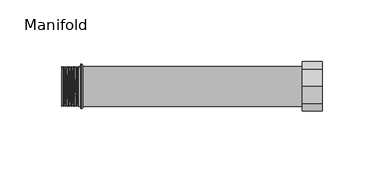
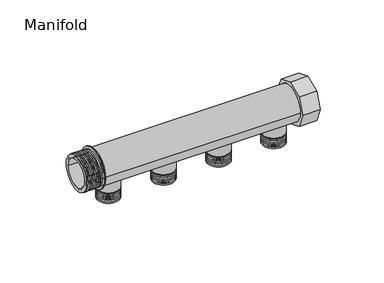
"""IFC4 building model written with IfcOpenShell, lengths in millimetres: valve geometry."""

from ifc_helpers import new_model, si_unit, point, frame, frame_2d, origin, origin_2d, place, context, project, spatial, polyline, circle_curve, ellipse_curve, trimmed, segment, composite_curve, outline, extrude, source, transform, mapped, element, save
from ifc_brep_helpers import plane_surface, cylinder_surface, revolved_surface, advanced_brep


def manifold_a6c2bfd1(model_context):
    return source(origin(), model_context, "Body", "SolidModel", [
        extrude(outline(composite_curve([segment(trimmed(circle_curve(frame_2d((179.0, 0.0)), 10.0), [point((169.0, 0.0))], [point((189.0, 0.0))], False, "CARTESIAN"), True, "CONTINUOUS"), segment(trimmed(circle_curve(frame_2d((179.0, 0.0)), 10.0), [point((189.0, 0.0))], [point((169.0, 0.0))], False, "CARTESIAN"), True, "CONTINUOUS")], self_intersect=False)), frame((0.0, 0.0, -22.0), z_axis=(0.0, 0.0, 1.0), x_axis=(1.0, 0.0, 0.0)), (0.0, 0.0, 1.0), 22.0),
        advanced_brep(
        [(169.0, 0.0, -32.0), (189.0, 0.0, -32.0), (179.0, 0.0, -32.0), (179.0, 0.0, -22.0), (189.0, 0.0, -22.0), (169.0, 0.0, -22.0), (170.0, 0.0, -31.2403523), (188.0, 0.0, -31.2403523), (169.0, 0.0, -30.4807046), (189.0, 0.0, -30.4807046), (170.0, 0.0, -29.721057), (188.0, 0.0, -29.721057), (169.0, 0.0, -28.9614093), (189.0, 0.0, -28.9614093), (170.0, 0.0, -28.2017616), (188.0, 0.0, -28.2017616), (169.0, 0.0, -27.4421139), (189.0, 0.0, -27.4421139), (170.0, 0.0, -26.6824663), (188.0, 0.0, -26.6824663), (169.0, 0.0, -25.9228186), (189.0, 0.0, -25.9228186), (170.0, 0.0, -25.1631709), (188.0, 0.0, -25.1631709), (169.0, 0.0, -24.4035232), (189.0, 0.0, -24.4035232), (170.0, 0.0, -23.6438756), (188.0, 0.0, -23.6438756), (169.0, 0.0, -22.8842279), (189.0, 0.0, -22.8842279)],
        [
            (0, 1, circle_curve(frame((179.0, 0.0, -32.0), z_axis=(0.0, 0.0, -1.0), x_axis=(1.0, 0.0, 0.0)), 10.0)),
            (1, 2),
            (2, 0),
            (1, 0, circle_curve(frame((179.0, 0.0, -32.0), z_axis=(0.0, 0.0, -1.0), x_axis=(1.0, 0.0, 0.0)), 10.0)),
            (3, 4),
            (4, 5, circle_curve(frame((179.0, 0.0, -22.0), z_axis=(0.0, 0.0, 1.0), x_axis=(1.0, 0.0, 0.0)), 10.0)),
            (5, 3),
            (5, 4, circle_curve(frame((179.0, 0.0, -22.0), z_axis=(0.0, 0.0, 1.0), x_axis=(1.0, 0.0, 0.0)), 10.0)),
            (6, 7, circle_curve(frame((179.0, 0.0, -31.2403523), z_axis=(0.0, 0.0, -1.0), x_axis=(1.0, 0.0, 0.0)), 9.0)),
            (7, 1),
            (0, 6),
            (7, 6, circle_curve(frame((179.0, 0.0, -31.2403523), z_axis=(0.0, 0.0, -1.0), x_axis=(1.0, 0.0, 0.0)), 9.0)),
            (8, 9, circle_curve(frame((179.0, 0.0, -30.4807046), z_axis=(0.0, 0.0, -1.0), x_axis=(1.0, 0.0, 0.0)), 10.0)),
            (9, 7),
            (6, 8),
            (9, 8, circle_curve(frame((179.0, 0.0, -30.4807046), z_axis=(0.0, 0.0, -1.0), x_axis=(1.0, 0.0, 0.0)), 10.0)),
            (10, 11, circle_curve(frame((179.0, 0.0, -29.721057), z_axis=(0.0, 0.0, -1.0), x_axis=(1.0, 0.0, 0.0)), 9.0)),
            (11, 9),
            (8, 10),
            (11, 10, circle_curve(frame((179.0, 0.0, -29.721057), z_axis=(0.0, 0.0, -1.0), x_axis=(1.0, 0.0, 0.0)), 9.0)),
            (12, 13, circle_curve(frame((179.0, 0.0, -28.9614093), z_axis=(0.0, 0.0, -1.0), x_axis=(1.0, 0.0, 0.0)), 10.0)),
            (13, 11),
            (10, 12),
            (13, 12, circle_curve(frame((179.0, 0.0, -28.9614093), z_axis=(0.0, 0.0, -1.0), x_axis=(1.0, 0.0, 0.0)), 10.0)),
            (14, 15, circle_curve(frame((179.0, 0.0, -28.2017616), z_axis=(0.0, 0.0, -1.0), x_axis=(1.0, 0.0, 0.0)), 9.0)),
            (15, 13),
            (12, 14),
            (15, 14, circle_curve(frame((179.0, 0.0, -28.2017616), z_axis=(0.0, 0.0, -1.0), x_axis=(1.0, 0.0, 0.0)), 9.0)),
            (16, 17, circle_curve(frame((179.0, 0.0, -27.4421139), z_axis=(0.0, 0.0, -1.0), x_axis=(1.0, 0.0, 0.0)), 10.0)),
            (17, 15),
            (14, 16),
            (17, 16, circle_curve(frame((179.0, 0.0, -27.4421139), z_axis=(0.0, 0.0, -1.0), x_axis=(1.0, 0.0, 0.0)), 10.0)),
            (18, 19, circle_curve(frame((179.0, 0.0, -26.6824663), z_axis=(0.0, 0.0, -1.0), x_axis=(1.0, 0.0, 0.0)), 9.0)),
            (19, 17),
            (16, 18),
            (19, 18, circle_curve(frame((179.0, 0.0, -26.6824663), z_axis=(0.0, 0.0, -1.0), x_axis=(1.0, 0.0, 0.0)), 9.0)),
            (20, 21, circle_curve(frame((179.0, 0.0, -25.9228186), z_axis=(0.0, 0.0, -1.0), x_axis=(1.0, 0.0, 0.0)), 10.0)),
            (21, 19),
            (18, 20),
            (21, 20, circle_curve(frame((179.0, 0.0, -25.9228186), z_axis=(0.0, 0.0, -1.0), x_axis=(1.0, 0.0, 0.0)), 10.0)),
            (22, 23, circle_curve(frame((179.0, 0.0, -25.1631709), z_axis=(0.0, 0.0, -1.0), x_axis=(1.0, 0.0, 0.0)), 9.0)),
            (23, 21),
            (20, 22),
            (23, 22, circle_curve(frame((179.0, 0.0, -25.1631709), z_axis=(0.0, 0.0, -1.0), x_axis=(1.0, 0.0, 0.0)), 9.0)),
            (24, 25, circle_curve(frame((179.0, 0.0, -24.4035232), z_axis=(0.0, 0.0, -1.0), x_axis=(1.0, 0.0, 0.0)), 10.0)),
            (25, 23),
            (22, 24),
            (25, 24, circle_curve(frame((179.0, 0.0, -24.4035232), z_axis=(0.0, 0.0, -1.0), x_axis=(1.0, 0.0, 0.0)), 10.0)),
            (26, 27, circle_curve(frame((179.0, 0.0, -23.6438756), z_axis=(0.0, 0.0, -1.0), x_axis=(1.0, 0.0, 0.0)), 9.0)),
            (27, 25),
            (24, 26),
            (27, 26, circle_curve(frame((179.0, 0.0, -23.6438756), z_axis=(0.0, 0.0, -1.0), x_axis=(1.0, 0.0, 0.0)), 9.0)),
            (28, 29, circle_curve(frame((179.0, 0.0, -22.8842279), z_axis=(0.0, 0.0, -1.0), x_axis=(1.0, 0.0, 0.0)), 10.0)),
            (29, 27),
            (26, 28),
            (29, 28, circle_curve(frame((179.0, 0.0, -22.8842279), z_axis=(0.0, 0.0, -1.0), x_axis=(1.0, 0.0, 0.0)), 10.0)),
            (4, 29),
            (28, 5),
        ],
        [
            plane_surface(frame((179.0, 0.0, -32.0), z_axis=(0.0, 0.0, -1.0), x_axis=(1.0, 0.0, 0.0))),
            plane_surface(frame((179.0, 0.0, -22.0), z_axis=(0.0, 0.0, 1.0), x_axis=(1.0, 0.0, 0.0))),
            revolved_surface(polyline([(189.0, 0.0, -32.0), (188.0, 0.0, -31.2403523)]), (179.0, 0.0, 2438.4), (0.0, 0.0, 1.0)),
            revolved_surface(polyline([(188.0, 0.0, -31.2403523), (189.0, 0.0, -30.4807046)]), (179.0, 0.0, 2438.4), (0.0, 0.0, 1.0)),
            revolved_surface(polyline([(189.0, 0.0, -30.4807046), (188.0, 0.0, -29.721057)]), (179.0, 0.0, 2438.4), (0.0, 0.0, 1.0)),
            revolved_surface(polyline([(188.0, 0.0, -29.721057), (189.0, 0.0, -28.9614093)]), (179.0, 0.0, 2438.4), (0.0, 0.0, 1.0)),
            revolved_surface(polyline([(189.0, 0.0, -28.9614093), (188.0, 0.0, -28.2017616)]), (179.0, 0.0, 2438.4), (0.0, 0.0, 1.0)),
            revolved_surface(polyline([(188.0, 0.0, -28.2017616), (189.0, 0.0, -27.4421139)]), (179.0, 0.0, 2438.4), (0.0, 0.0, 1.0)),
            revolved_surface(polyline([(189.0, 0.0, -27.4421139), (188.0, 0.0, -26.6824663)]), (179.0, 0.0, 2438.4), (0.0, 0.0, 1.0)),
            revolved_surface(polyline([(188.0, 0.0, -26.6824663), (189.0, 0.0, -25.9228186)]), (179.0, 0.0, 2438.4), (0.0, 0.0, 1.0)),
            revolved_surface(polyline([(189.0, 0.0, -25.9228186), (188.0, 0.0, -25.1631709)]), (179.0, 0.0, 2438.4), (0.0, 0.0, 1.0)),
            revolved_surface(polyline([(188.0, 0.0, -25.1631709), (189.0, 0.0, -24.4035232)]), (179.0, 0.0, 2438.4), (0.0, 0.0, 1.0)),
            revolved_surface(polyline([(189.0, 0.0, -24.4035232), (188.0, 0.0, -23.6438756)]), (179.0, 0.0, 2438.4), (0.0, 0.0, 1.0)),
            revolved_surface(polyline([(188.0, 0.0, -23.6438756), (189.0, 0.0, -22.8842279)]), (179.0, 0.0, 2438.4), (0.0, 0.0, 1.0)),
            cylinder_surface(frame((179.0, 0.0, 2438.4), z_axis=(0.0, 0.0, 1.0), x_axis=(1.0, 0.0, 0.0)), 10.0),
        ],
        [
            (0, [[1, 2, 3]]),
            (0, [[4, -3, -2]]),
            (1, [[5, 6, 7]]),
            (1, [[-7, 8, -5]]),
            (2, [[9, 10, -1, 11]]),
            (2, [[12, -11, -4, -10]]),
            (3, [[13, 14, -9, 15]]),
            (3, [[16, -15, -12, -14]]),
            (4, [[17, 18, -13, 19]]),
            (4, [[20, -19, -16, -18]]),
            (5, [[21, 22, -17, 23]]),
            (5, [[24, -23, -20, -22]]),
            (6, [[25, 26, -21, 27]]),
            (6, [[28, -27, -24, -26]]),
            (7, [[29, 30, -25, 31]]),
            (7, [[32, -31, -28, -30]]),
            (8, [[33, 34, -29, 35]]),
            (8, [[36, -35, -32, -34]]),
            (9, [[37, 38, -33, 39]]),
            (9, [[40, -39, -36, -38]]),
            (10, [[41, 42, -37, 43]]),
            (10, [[44, -43, -40, -42]]),
            (11, [[45, 46, -41, 47]]),
            (11, [[48, -47, -44, -46]]),
            (12, [[49, 50, -45, 51]]),
            (12, [[52, -51, -48, -50]]),
            (13, [[53, 54, -49, 55]]),
            (13, [[56, -55, -52, -54]]),
            (14, [[-6, 57, -53, 58]]),
            (14, [[-8, -58, -56, -57]]),
        ],
    ),
        extrude(outline(composite_curve([segment(trimmed(circle_curve(frame_2d((129.0, 0.0)), 10.0), [point((119.0, 0.0))], [point((139.0, 0.0))], False, "CARTESIAN"), True, "CONTINUOUS"), segment(trimmed(circle_curve(frame_2d((129.0, 0.0)), 10.0), [point((139.0, 0.0))], [point((119.0, 0.0))], False, "CARTESIAN"), True, "CONTINUOUS")], self_intersect=False)), frame((0.0, 0.0, -22.0), z_axis=(0.0, 0.0, 1.0), x_axis=(1.0, 0.0, 0.0)), (0.0, 0.0, 1.0), 22.0),
        advanced_brep(
        [(119.0, 0.0, -32.0), (139.0, 0.0, -32.0), (129.0, 0.0, -32.0), (129.0, 0.0, -22.0), (139.0, 0.0, -22.0), (119.0, 0.0, -22.0), (120.0, 0.0, -31.2403523), (138.0, 0.0, -31.2403523), (119.0, 0.0, -30.4807046), (139.0, 0.0, -30.4807046), (120.0, 0.0, -29.721057), (138.0, 0.0, -29.721057), (119.0, 0.0, -28.9614093), (139.0, 0.0, -28.9614093), (120.0, 0.0, -28.2017616), (138.0, 0.0, -28.2017616), (119.0, 0.0, -27.4421139), (139.0, 0.0, -27.4421139), (120.0, 0.0, -26.6824663), (138.0, 0.0, -26.6824663), (119.0, 0.0, -25.9228186), (139.0, 0.0, -25.9228186), (120.0, 0.0, -25.1631709), (138.0, 0.0, -25.1631709), (119.0, 0.0, -24.4035232), (139.0, 0.0, -24.4035232), (120.0, 0.0, -23.6438756), (138.0, 0.0, -23.6438756), (119.0, 0.0, -22.8842279), (139.0, 0.0, -22.8842279)],
        [
            (0, 1, circle_curve(frame((129.0, 0.0, -32.0), z_axis=(0.0, 0.0, -1.0), x_axis=(1.0, 0.0, 0.0)), 10.0)),
            (1, 2),
            (2, 0),
            (1, 0, circle_curve(frame((129.0, 0.0, -32.0), z_axis=(0.0, 0.0, -1.0), x_axis=(1.0, 0.0, 0.0)), 10.0)),
            (3, 4),
            (4, 5, circle_curve(frame((129.0, 0.0, -22.0), z_axis=(0.0, 0.0, 1.0), x_axis=(1.0, 0.0, 0.0)), 10.0)),
            (5, 3),
            (5, 4, circle_curve(frame((129.0, 0.0, -22.0), z_axis=(0.0, 0.0, 1.0), x_axis=(1.0, 0.0, 0.0)), 10.0)),
            (6, 7, circle_curve(frame((129.0, 0.0, -31.2403523), z_axis=(0.0, 0.0, -1.0), x_axis=(1.0, 0.0, 0.0)), 9.0)),
            (7, 1),
            (0, 6),
            (7, 6, circle_curve(frame((129.0, 0.0, -31.2403523), z_axis=(0.0, 0.0, -1.0), x_axis=(1.0, 0.0, 0.0)), 9.0)),
            (8, 9, circle_curve(frame((129.0, 0.0, -30.4807046), z_axis=(0.0, 0.0, -1.0), x_axis=(1.0, 0.0, 0.0)), 10.0)),
            (9, 7),
            (6, 8),
            (9, 8, circle_curve(frame((129.0, 0.0, -30.4807046), z_axis=(0.0, 0.0, -1.0), x_axis=(1.0, 0.0, 0.0)), 10.0)),
            (10, 11, circle_curve(frame((129.0, 0.0, -29.721057), z_axis=(0.0, 0.0, -1.0), x_axis=(1.0, 0.0, 0.0)), 9.0)),
            (11, 9),
            (8, 10),
            (11, 10, circle_curve(frame((129.0, 0.0, -29.721057), z_axis=(0.0, 0.0, -1.0), x_axis=(1.0, 0.0, 0.0)), 9.0)),
            (12, 13, circle_curve(frame((129.0, 0.0, -28.9614093), z_axis=(0.0, 0.0, -1.0), x_axis=(1.0, 0.0, 0.0)), 10.0)),
            (13, 11),
            (10, 12),
            (13, 12, circle_curve(frame((129.0, 0.0, -28.9614093), z_axis=(0.0, 0.0, -1.0), x_axis=(1.0, 0.0, 0.0)), 10.0)),
            (14, 15, circle_curve(frame((129.0, 0.0, -28.2017616), z_axis=(0.0, 0.0, -1.0), x_axis=(1.0, 0.0, 0.0)), 9.0)),
            (15, 13),
            (12, 14),
            (15, 14, circle_curve(frame((129.0, 0.0, -28.2017616), z_axis=(0.0, 0.0, -1.0), x_axis=(1.0, 0.0, 0.0)), 9.0)),
            (16, 17, circle_curve(frame((129.0, 0.0, -27.4421139), z_axis=(0.0, 0.0, -1.0), x_axis=(1.0, 0.0, 0.0)), 10.0)),
            (17, 15),
            (14, 16),
            (17, 16, circle_curve(frame((129.0, 0.0, -27.4421139), z_axis=(0.0, 0.0, -1.0), x_axis=(1.0, 0.0, 0.0)), 10.0)),
            (18, 19, circle_curve(frame((129.0, 0.0, -26.6824663), z_axis=(0.0, 0.0, -1.0), x_axis=(1.0, 0.0, 0.0)), 9.0)),
            (19, 17),
            (16, 18),
            (19, 18, circle_curve(frame((129.0, 0.0, -26.6824663), z_axis=(0.0, 0.0, -1.0), x_axis=(1.0, 0.0, 0.0)), 9.0)),
            (20, 21, circle_curve(frame((129.0, 0.0, -25.9228186), z_axis=(0.0, 0.0, -1.0), x_axis=(1.0, 0.0, 0.0)), 10.0)),
            (21, 19),
            (18, 20),
            (21, 20, circle_curve(frame((129.0, 0.0, -25.9228186), z_axis=(0.0, 0.0, -1.0), x_axis=(1.0, 0.0, 0.0)), 10.0)),
            (22, 23, circle_curve(frame((129.0, 0.0, -25.1631709), z_axis=(0.0, 0.0, -1.0), x_axis=(1.0, 0.0, 0.0)), 9.0)),
            (23, 21),
            (20, 22),
            (23, 22, circle_curve(frame((129.0, 0.0, -25.1631709), z_axis=(0.0, 0.0, -1.0), x_axis=(1.0, 0.0, 0.0)), 9.0)),
            (24, 25, circle_curve(frame((129.0, 0.0, -24.4035232), z_axis=(0.0, 0.0, -1.0), x_axis=(1.0, 0.0, 0.0)), 10.0)),
            (25, 23),
            (22, 24),
            (25, 24, circle_curve(frame((129.0, 0.0, -24.4035232), z_axis=(0.0, 0.0, -1.0), x_axis=(1.0, 0.0, 0.0)), 10.0)),
            (26, 27, circle_curve(frame((129.0, 0.0, -23.6438756), z_axis=(0.0, 0.0, -1.0), x_axis=(1.0, 0.0, 0.0)), 9.0)),
            (27, 25),
            (24, 26),
            (27, 26, circle_curve(frame((129.0, 0.0, -23.6438756), z_axis=(0.0, 0.0, -1.0), x_axis=(1.0, 0.0, 0.0)), 9.0)),
            (28, 29, circle_curve(frame((129.0, 0.0, -22.8842279), z_axis=(0.0, 0.0, -1.0), x_axis=(1.0, 0.0, 0.0)), 10.0)),
            (29, 27),
            (26, 28),
            (29, 28, circle_curve(frame((129.0, 0.0, -22.8842279), z_axis=(0.0, 0.0, -1.0), x_axis=(1.0, 0.0, 0.0)), 10.0)),
            (4, 29),
            (28, 5),
        ],
        [
            plane_surface(frame((129.0, 0.0, -32.0), z_axis=(0.0, 0.0, -1.0), x_axis=(1.0, 0.0, 0.0))),
            plane_surface(frame((129.0, 0.0, -22.0), z_axis=(0.0, 0.0, 1.0), x_axis=(1.0, 0.0, 0.0))),
            revolved_surface(polyline([(139.0, 0.0, -32.0), (138.0, 0.0, -31.2403523)]), (129.0, 0.0, 2438.4), (0.0, 0.0, 1.0)),
            revolved_surface(polyline([(138.0, 0.0, -31.2403523), (139.0, 0.0, -30.4807046)]), (129.0, 0.0, 2438.4), (0.0, 0.0, 1.0)),
            revolved_surface(polyline([(139.0, 0.0, -30.4807046), (138.0, 0.0, -29.721057)]), (129.0, 0.0, 2438.4), (0.0, 0.0, 1.0)),
            revolved_surface(polyline([(138.0, 0.0, -29.721057), (139.0, 0.0, -28.9614093)]), (129.0, 0.0, 2438.4), (0.0, 0.0, 1.0)),
            revolved_surface(polyline([(139.0, 0.0, -28.9614093), (138.0, 0.0, -28.2017616)]), (129.0, 0.0, 2438.4), (0.0, 0.0, 1.0)),
            revolved_surface(polyline([(138.0, 0.0, -28.2017616), (139.0, 0.0, -27.4421139)]), (129.0, 0.0, 2438.4), (0.0, 0.0, 1.0)),
            revolved_surface(polyline([(139.0, 0.0, -27.4421139), (138.0, 0.0, -26.6824663)]), (129.0, 0.0, 2438.4), (0.0, 0.0, 1.0)),
            revolved_surface(polyline([(138.0, 0.0, -26.6824663), (139.0, 0.0, -25.9228186)]), (129.0, 0.0, 2438.4), (0.0, 0.0, 1.0)),
            revolved_surface(polyline([(139.0, 0.0, -25.9228186), (138.0, 0.0, -25.1631709)]), (129.0, 0.0, 2438.4), (0.0, 0.0, 1.0)),
            revolved_surface(polyline([(138.0, 0.0, -25.1631709), (139.0, 0.0, -24.4035232)]), (129.0, 0.0, 2438.4), (0.0, 0.0, 1.0)),
            revolved_surface(polyline([(139.0, 0.0, -24.4035232), (138.0, 0.0, -23.6438756)]), (129.0, 0.0, 2438.4), (0.0, 0.0, 1.0)),
            revolved_surface(polyline([(138.0, 0.0, -23.6438756), (139.0, 0.0, -22.8842279)]), (129.0, 0.0, 2438.4), (0.0, 0.0, 1.0)),
            cylinder_surface(frame((129.0, 0.0, 2438.4), z_axis=(0.0, 0.0, 1.0), x_axis=(1.0, 0.0, 0.0)), 10.0),
        ],
        [
            (0, [[1, 2, 3]]),
            (0, [[4, -3, -2]]),
            (1, [[5, 6, 7]]),
            (1, [[-7, 8, -5]]),
            (2, [[9, 10, -1, 11]]),
            (2, [[12, -11, -4, -10]]),
            (3, [[13, 14, -9, 15]]),
            (3, [[16, -15, -12, -14]]),
            (4, [[17, 18, -13, 19]]),
            (4, [[20, -19, -16, -18]]),
            (5, [[21, 22, -17, 23]]),
            (5, [[24, -23, -20, -22]]),
            (6, [[25, 26, -21, 27]]),
            (6, [[28, -27, -24, -26]]),
            (7, [[29, 30, -25, 31]]),
            (7, [[32, -31, -28, -30]]),
            (8, [[33, 34, -29, 35]]),
            (8, [[36, -35, -32, -34]]),
            (9, [[37, 38, -33, 39]]),
            (9, [[40, -39, -36, -38]]),
            (10, [[41, 42, -37, 43]]),
            (10, [[44, -43, -40, -42]]),
            (11, [[45, 46, -41, 47]]),
            (11, [[48, -47, -44, -46]]),
            (12, [[49, 50, -45, 51]]),
            (12, [[52, -51, -48, -50]]),
            (13, [[53, 54, -49, 55]]),
            (13, [[56, -55, -52, -54]]),
            (14, [[-6, 57, -53, 58]]),
            (14, [[-8, -58, -56, -57]]),
        ],
    ),
        extrude(outline(composite_curve([segment(trimmed(circle_curve(frame_2d((79.0, 0.0)), 10.0), [point((69.0, 0.0))], [point((89.0, 0.0))], False, "CARTESIAN"), True, "CONTINUOUS"), segment(trimmed(circle_curve(frame_2d((79.0, 0.0)), 10.0), [point((89.0, 0.0))], [point((69.0, 0.0))], False, "CARTESIAN"), True, "CONTINUOUS")], self_intersect=False)), frame((0.0, 0.0, -22.0), z_axis=(0.0, 0.0, 1.0), x_axis=(1.0, 0.0, 0.0)), (0.0, 0.0, 1.0), 22.0),
        advanced_brep(
        [(69.0, 0.0, -32.0), (89.0, 0.0, -32.0), (79.0, 0.0, -32.0), (79.0, 0.0, -22.0), (89.0, 0.0, -22.0), (69.0, 0.0, -22.0), (70.0, 0.0, -31.2403523), (88.0, 0.0, -31.2403523), (69.0, 0.0, -30.4807046), (89.0, 0.0, -30.4807046), (70.0, 0.0, -29.721057), (88.0, 0.0, -29.721057), (69.0, 0.0, -28.9614093), (89.0, 0.0, -28.9614093), (70.0, 0.0, -28.2017616), (88.0, 0.0, -28.2017616), (69.0, 0.0, -27.4421139), (89.0, 0.0, -27.4421139), (70.0, 0.0, -26.6824663), (88.0, 0.0, -26.6824663), (69.0, 0.0, -25.9228186), (89.0, 0.0, -25.9228186), (70.0, 0.0, -25.1631709), (88.0, 0.0, -25.1631709), (69.0, 0.0, -24.4035232), (89.0, 0.0, -24.4035232), (70.0, 0.0, -23.6438756), (88.0, 0.0, -23.6438756), (69.0, 0.0, -22.8842279), (89.0, 0.0, -22.8842279)],
        [
            (0, 1, circle_curve(frame((79.0, 0.0, -32.0), z_axis=(0.0, 0.0, -1.0), x_axis=(1.0, 0.0, 0.0)), 10.0)),
            (1, 2),
            (2, 0),
            (1, 0, circle_curve(frame((79.0, 0.0, -32.0), z_axis=(0.0, 0.0, -1.0), x_axis=(1.0, 0.0, 0.0)), 10.0)),
            (3, 4),
            (4, 5, circle_curve(frame((79.0, 0.0, -22.0), z_axis=(0.0, 0.0, 1.0), x_axis=(1.0, 0.0, 0.0)), 10.0)),
            (5, 3),
            (5, 4, circle_curve(frame((79.0, 0.0, -22.0), z_axis=(0.0, 0.0, 1.0), x_axis=(1.0, 0.0, 0.0)), 10.0)),
            (6, 7, circle_curve(frame((79.0, 0.0, -31.2403523), z_axis=(0.0, 0.0, -1.0), x_axis=(1.0, 0.0, 0.0)), 9.0)),
            (7, 1),
            (0, 6),
            (7, 6, circle_curve(frame((79.0, 0.0, -31.2403523), z_axis=(0.0, 0.0, -1.0), x_axis=(1.0, 0.0, 0.0)), 9.0)),
            (8, 9, circle_curve(frame((79.0, 0.0, -30.4807046), z_axis=(0.0, 0.0, -1.0), x_axis=(1.0, 0.0, 0.0)), 10.0)),
            (9, 7),
            (6, 8),
            (9, 8, circle_curve(frame((79.0, 0.0, -30.4807046), z_axis=(0.0, 0.0, -1.0), x_axis=(1.0, 0.0, 0.0)), 10.0)),
            (10, 11, circle_curve(frame((79.0, 0.0, -29.721057), z_axis=(0.0, 0.0, -1.0), x_axis=(1.0, 0.0, 0.0)), 9.0)),
            (11, 9),
            (8, 10),
            (11, 10, circle_curve(frame((79.0, 0.0, -29.721057), z_axis=(0.0, 0.0, -1.0), x_axis=(1.0, 0.0, 0.0)), 9.0)),
            (12, 13, circle_curve(frame((79.0, 0.0, -28.9614093), z_axis=(0.0, 0.0, -1.0), x_axis=(1.0, 0.0, 0.0)), 10.0)),
            (13, 11),
            (10, 12),
            (13, 12, circle_curve(frame((79.0, 0.0, -28.9614093), z_axis=(0.0, 0.0, -1.0), x_axis=(1.0, 0.0, 0.0)), 10.0)),
            (14, 15, circle_curve(frame((79.0, 0.0, -28.2017616), z_axis=(0.0, 0.0, -1.0), x_axis=(1.0, 0.0, 0.0)), 9.0)),
            (15, 13),
            (12, 14),
            (15, 14, circle_curve(frame((79.0, 0.0, -28.2017616), z_axis=(0.0, 0.0, -1.0), x_axis=(1.0, 0.0, 0.0)), 9.0)),
            (16, 17, circle_curve(frame((79.0, 0.0, -27.4421139), z_axis=(0.0, 0.0, -1.0), x_axis=(1.0, 0.0, 0.0)), 10.0)),
            (17, 15),
            (14, 16),
            (17, 16, circle_curve(frame((79.0, 0.0, -27.4421139), z_axis=(0.0, 0.0, -1.0), x_axis=(1.0, 0.0, 0.0)), 10.0)),
            (18, 19, circle_curve(frame((79.0, 0.0, -26.6824663), z_axis=(0.0, 0.0, -1.0), x_axis=(1.0, 0.0, 0.0)), 9.0)),
            (19, 17),
            (16, 18),
            (19, 18, circle_curve(frame((79.0, 0.0, -26.6824663), z_axis=(0.0, 0.0, -1.0), x_axis=(1.0, 0.0, 0.0)), 9.0)),
            (20, 21, circle_curve(frame((79.0, 0.0, -25.9228186), z_axis=(0.0, 0.0, -1.0), x_axis=(1.0, 0.0, 0.0)), 10.0)),
            (21, 19),
            (18, 20),
            (21, 20, circle_curve(frame((79.0, 0.0, -25.9228186), z_axis=(0.0, 0.0, -1.0), x_axis=(1.0, 0.0, 0.0)), 10.0)),
            (22, 23, circle_curve(frame((79.0, 0.0, -25.1631709), z_axis=(0.0, 0.0, -1.0), x_axis=(1.0, 0.0, 0.0)), 9.0)),
            (23, 21),
            (20, 22),
            (23, 22, circle_curve(frame((79.0, 0.0, -25.1631709), z_axis=(0.0, 0.0, -1.0), x_axis=(1.0, 0.0, 0.0)), 9.0)),
            (24, 25, circle_curve(frame((79.0, 0.0, -24.4035232), z_axis=(0.0, 0.0, -1.0), x_axis=(1.0, 0.0, 0.0)), 10.0)),
            (25, 23),
            (22, 24),
            (25, 24, circle_curve(frame((79.0, 0.0, -24.4035232), z_axis=(0.0, 0.0, -1.0), x_axis=(1.0, 0.0, 0.0)), 10.0)),
            (26, 27, circle_curve(frame((79.0, 0.0, -23.6438756), z_axis=(0.0, 0.0, -1.0), x_axis=(1.0, 0.0, 0.0)), 9.0)),
            (27, 25),
            (24, 26),
            (27, 26, circle_curve(frame((79.0, 0.0, -23.6438756), z_axis=(0.0, 0.0, -1.0), x_axis=(1.0, 0.0, 0.0)), 9.0)),
            (28, 29, circle_curve(frame((79.0, 0.0, -22.8842279), z_axis=(0.0, 0.0, -1.0), x_axis=(1.0, 0.0, 0.0)), 10.0)),
            (29, 27),
            (26, 28),
            (29, 28, circle_curve(frame((79.0, 0.0, -22.8842279), z_axis=(0.0, 0.0, -1.0), x_axis=(1.0, 0.0, 0.0)), 10.0)),
            (4, 29),
            (28, 5),
        ],
        [
            plane_surface(frame((79.0, 0.0, -32.0), z_axis=(0.0, 0.0, -1.0), x_axis=(1.0, 0.0, 0.0))),
            plane_surface(frame((79.0, 0.0, -22.0), z_axis=(0.0, 0.0, 1.0), x_axis=(1.0, 0.0, 0.0))),
            revolved_surface(polyline([(89.0, 0.0, -32.0), (88.0, 0.0, -31.2403523)]), (79.0, 0.0, 2438.4), (0.0, 0.0, 1.0)),
            revolved_surface(polyline([(88.0, 0.0, -31.2403523), (89.0, 0.0, -30.4807046)]), (79.0, 0.0, 2438.4), (0.0, 0.0, 1.0)),
            revolved_surface(polyline([(89.0, 0.0, -30.4807046), (88.0, 0.0, -29.721057)]), (79.0, 0.0, 2438.4), (0.0, 0.0, 1.0)),
            revolved_surface(polyline([(88.0, 0.0, -29.721057), (89.0, 0.0, -28.9614093)]), (79.0, 0.0, 2438.4), (0.0, 0.0, 1.0)),
            revolved_surface(polyline([(89.0, 0.0, -28.9614093), (88.0, 0.0, -28.2017616)]), (79.0, 0.0, 2438.4), (0.0, 0.0, 1.0)),
            revolved_surface(polyline([(88.0, 0.0, -28.2017616), (89.0, 0.0, -27.4421139)]), (79.0, 0.0, 2438.4), (0.0, 0.0, 1.0)),
            revolved_surface(polyline([(89.0, 0.0, -27.4421139), (88.0, 0.0, -26.6824663)]), (79.0, 0.0, 2438.4), (0.0, 0.0, 1.0)),
            revolved_surface(polyline([(88.0, 0.0, -26.6824663), (89.0, 0.0, -25.9228186)]), (79.0, 0.0, 2438.4), (0.0, 0.0, 1.0)),
            revolved_surface(polyline([(89.0, 0.0, -25.9228186), (88.0, 0.0, -25.1631709)]), (79.0, 0.0, 2438.4), (0.0, 0.0, 1.0)),
            revolved_surface(polyline([(88.0, 0.0, -25.1631709), (89.0, 0.0, -24.4035232)]), (79.0, 0.0, 2438.4), (0.0, 0.0, 1.0)),
            revolved_surface(polyline([(89.0, 0.0, -24.4035232), (88.0, 0.0, -23.6438756)]), (79.0, 0.0, 2438.4), (0.0, 0.0, 1.0)),
            revolved_surface(polyline([(88.0, 0.0, -23.6438756), (89.0, 0.0, -22.8842279)]), (79.0, 0.0, 2438.4), (0.0, 0.0, 1.0)),
            cylinder_surface(frame((79.0, 0.0, 2438.4), z_axis=(0.0, 0.0, 1.0), x_axis=(1.0, 0.0, 0.0)), 10.0),
        ],
        [
            (0, [[1, 2, 3]]),
            (0, [[4, -3, -2]]),
            (1, [[5, 6, 7]]),
            (1, [[-7, 8, -5]]),
            (2, [[9, 10, -1, 11]]),
            (2, [[12, -11, -4, -10]]),
            (3, [[13, 14, -9, 15]]),
            (3, [[16, -15, -12, -14]]),
            (4, [[17, 18, -13, 19]]),
            (4, [[20, -19, -16, -18]]),
            (5, [[21, 22, -17, 23]]),
            (5, [[24, -23, -20, -22]]),
            (6, [[25, 26, -21, 27]]),
            (6, [[28, -27, -24, -26]]),
            (7, [[29, 30, -25, 31]]),
            (7, [[32, -31, -28, -30]]),
            (8, [[33, 34, -29, 35]]),
            (8, [[36, -35, -32, -34]]),
            (9, [[37, 38, -33, 39]]),
            (9, [[40, -39, -36, -38]]),
            (10, [[41, 42, -37, 43]]),
            (10, [[44, -43, -40, -42]]),
            (11, [[45, 46, -41, 47]]),
            (11, [[48, -47, -44, -46]]),
            (12, [[49, 50, -45, 51]]),
            (12, [[52, -51, -48, -50]]),
            (13, [[53, 54, -49, 55]]),
            (13, [[56, -55, -52, -54]]),
            (14, [[-6, 57, -53, 58]]),
            (14, [[-8, -58, -56, -57]]),
        ],
    ),
        extrude(outline(composite_curve([segment(trimmed(circle_curve(frame_2d((29.0, 0.0)), 10.0), [point((19.0, 0.0))], [point((39.0, 0.0))], False, "CARTESIAN"), True, "CONTINUOUS"), segment(trimmed(circle_curve(frame_2d((29.0, 0.0)), 10.0), [point((39.0, 0.0))], [point((19.0, 0.0))], False, "CARTESIAN"), True, "CONTINUOUS")], self_intersect=False)), frame((0.0, 0.0, -22.0), z_axis=(0.0, 0.0, 1.0), x_axis=(1.0, 0.0, 0.0)), (0.0, 0.0, 1.0), 22.0),
        advanced_brep(
        [(19.0, 0.0, -32.0), (39.0, 0.0, -32.0), (29.0, 0.0, -32.0), (29.0, 0.0, -22.0), (39.0, 0.0, -22.0), (19.0, 0.0, -22.0), (20.0, 0.0, -31.2403523), (38.0, 0.0, -31.2403523), (19.0, 0.0, -30.4807046), (39.0, 0.0, -30.4807046), (20.0, 0.0, -29.721057), (38.0, 0.0, -29.721057), (19.0, 0.0, -28.9614093), (39.0, 0.0, -28.9614093), (20.0, 0.0, -28.2017616), (38.0, 0.0, -28.2017616), (19.0, 0.0, -27.4421139), (39.0, 0.0, -27.4421139), (20.0, 0.0, -26.6824663), (38.0, 0.0, -26.6824663), (19.0, 0.0, -25.9228186), (39.0, 0.0, -25.9228186), (20.0, 0.0, -25.1631709), (38.0, 0.0, -25.1631709), (19.0, 0.0, -24.4035232), (39.0, 0.0, -24.4035232), (20.0, 0.0, -23.6438756), (38.0, 0.0, -23.6438756), (19.0, 0.0, -22.8842279), (39.0, 0.0, -22.8842279)],
        [
            (0, 1, circle_curve(frame((29.0, 0.0, -32.0), z_axis=(0.0, 0.0, -1.0), x_axis=(1.0, 0.0, 0.0)), 10.0)),
            (1, 2),
            (2, 0),
            (1, 0, circle_curve(frame((29.0, 0.0, -32.0), z_axis=(0.0, 0.0, -1.0), x_axis=(1.0, 0.0, 0.0)), 10.0)),
            (3, 4),
            (4, 5, circle_curve(frame((29.0, 0.0, -22.0), z_axis=(0.0, 0.0, 1.0), x_axis=(1.0, 0.0, 0.0)), 10.0)),
            (5, 3),
            (5, 4, circle_curve(frame((29.0, 0.0, -22.0), z_axis=(0.0, 0.0, 1.0), x_axis=(1.0, 0.0, 0.0)), 10.0)),
            (6, 7, circle_curve(frame((29.0, 0.0, -31.2403523), z_axis=(0.0, 0.0, -1.0), x_axis=(1.0, 0.0, 0.0)), 9.0)),
            (7, 1),
            (0, 6),
            (7, 6, circle_curve(frame((29.0, 0.0, -31.2403523), z_axis=(0.0, 0.0, -1.0), x_axis=(1.0, 0.0, 0.0)), 9.0)),
            (8, 9, circle_curve(frame((29.0, 0.0, -30.4807046), z_axis=(0.0, 0.0, -1.0), x_axis=(1.0, 0.0, 0.0)), 10.0)),
            (9, 7),
            (6, 8),
            (9, 8, circle_curve(frame((29.0, 0.0, -30.4807046), z_axis=(0.0, 0.0, -1.0), x_axis=(1.0, 0.0, 0.0)), 10.0)),
            (10, 11, circle_curve(frame((29.0, 0.0, -29.721057), z_axis=(0.0, 0.0, -1.0), x_axis=(1.0, 0.0, 0.0)), 9.0)),
            (11, 9),
            (8, 10),
            (11, 10, circle_curve(frame((29.0, 0.0, -29.721057), z_axis=(0.0, 0.0, -1.0), x_axis=(1.0, 0.0, 0.0)), 9.0)),
            (12, 13, circle_curve(frame((29.0, 0.0, -28.9614093), z_axis=(0.0, 0.0, -1.0), x_axis=(1.0, 0.0, 0.0)), 10.0)),
            (13, 11),
            (10, 12),
            (13, 12, circle_curve(frame((29.0, 0.0, -28.9614093), z_axis=(0.0, 0.0, -1.0), x_axis=(1.0, 0.0, 0.0)), 10.0)),
            (14, 15, circle_curve(frame((29.0, 0.0, -28.2017616), z_axis=(0.0, 0.0, -1.0), x_axis=(1.0, 0.0, 0.0)), 9.0)),
            (15, 13),
            (12, 14),
            (15, 14, circle_curve(frame((29.0, 0.0, -28.2017616), z_axis=(0.0, 0.0, -1.0), x_axis=(1.0, 0.0, 0.0)), 9.0)),
            (16, 17, circle_curve(frame((29.0, 0.0, -27.4421139), z_axis=(0.0, 0.0, -1.0), x_axis=(1.0, 0.0, 0.0)), 10.0)),
            (17, 15),
            (14, 16),
            (17, 16, circle_curve(frame((29.0, 0.0, -27.4421139), z_axis=(0.0, 0.0, -1.0), x_axis=(1.0, 0.0, 0.0)), 10.0)),
            (18, 19, circle_curve(frame((29.0, 0.0, -26.6824663), z_axis=(0.0, 0.0, -1.0), x_axis=(1.0, 0.0, 0.0)), 9.0)),
            (19, 17),
            (16, 18),
            (19, 18, circle_curve(frame((29.0, 0.0, -26.6824663), z_axis=(0.0, 0.0, -1.0), x_axis=(1.0, 0.0, 0.0)), 9.0)),
            (20, 21, circle_curve(frame((29.0, 0.0, -25.9228186), z_axis=(0.0, 0.0, -1.0), x_axis=(1.0, 0.0, 0.0)), 10.0)),
            (21, 19),
            (18, 20),
            (21, 20, circle_curve(frame((29.0, 0.0, -25.9228186), z_axis=(0.0, 0.0, -1.0), x_axis=(1.0, 0.0, 0.0)), 10.0)),
            (22, 23, circle_curve(frame((29.0, 0.0, -25.1631709), z_axis=(0.0, 0.0, -1.0), x_axis=(1.0, 0.0, 0.0)), 9.0)),
            (23, 21),
            (20, 22),
            (23, 22, circle_curve(frame((29.0, 0.0, -25.1631709), z_axis=(0.0, 0.0, -1.0), x_axis=(1.0, 0.0, 0.0)), 9.0)),
            (24, 25, circle_curve(frame((29.0, 0.0, -24.4035232), z_axis=(0.0, 0.0, -1.0), x_axis=(1.0, 0.0, 0.0)), 10.0)),
            (25, 23),
            (22, 24),
            (25, 24, circle_curve(frame((29.0, 0.0, -24.4035232), z_axis=(0.0, 0.0, -1.0), x_axis=(1.0, 0.0, 0.0)), 10.0)),
            (26, 27, circle_curve(frame((29.0, 0.0, -23.6438756), z_axis=(0.0, 0.0, -1.0), x_axis=(1.0, 0.0, 0.0)), 9.0)),
            (27, 25),
            (24, 26),
            (27, 26, circle_curve(frame((29.0, 0.0, -23.6438756), z_axis=(0.0, 0.0, -1.0), x_axis=(1.0, 0.0, 0.0)), 9.0)),
            (28, 29, circle_curve(frame((29.0, 0.0, -22.8842279), z_axis=(0.0, 0.0, -1.0), x_axis=(1.0, 0.0, 0.0)), 10.0)),
            (29, 27),
            (26, 28),
            (29, 28, circle_curve(frame((29.0, 0.0, -22.8842279), z_axis=(0.0, 0.0, -1.0), x_axis=(1.0, 0.0, 0.0)), 10.0)),
            (4, 29),
            (28, 5),
        ],
        [
            plane_surface(frame((29.0, 0.0, -32.0), z_axis=(0.0, 0.0, -1.0), x_axis=(1.0, 0.0, 0.0))),
            plane_surface(frame((29.0, 0.0, -22.0), z_axis=(0.0, 0.0, 1.0), x_axis=(1.0, 0.0, 0.0))),
            revolved_surface(polyline([(39.0, 0.0, -32.0), (38.0, 0.0, -31.2403523)]), (29.0, 0.0, 2438.4), (0.0, 0.0, 1.0)),
            revolved_surface(polyline([(38.0, 0.0, -31.2403523), (39.0, 0.0, -30.4807046)]), (29.0, 0.0, 2438.4), (0.0, 0.0, 1.0)),
            revolved_surface(polyline([(39.0, 0.0, -30.4807046), (38.0, 0.0, -29.721057)]), (29.0, 0.0, 2438.4), (0.0, 0.0, 1.0)),
            revolved_surface(polyline([(38.0, 0.0, -29.721057), (39.0, 0.0, -28.9614093)]), (29.0, 0.0, 2438.4), (0.0, 0.0, 1.0)),
            revolved_surface(polyline([(39.0, 0.0, -28.9614093), (38.0, 0.0, -28.2017616)]), (29.0, 0.0, 2438.4), (0.0, 0.0, 1.0)),
            revolved_surface(polyline([(38.0, 0.0, -28.2017616), (39.0, 0.0, -27.4421139)]), (29.0, 0.0, 2438.4), (0.0, 0.0, 1.0)),
            revolved_surface(polyline([(39.0, 0.0, -27.4421139), (38.0, 0.0, -26.6824663)]), (29.0, 0.0, 2438.4), (0.0, 0.0, 1.0)),
            revolved_surface(polyline([(38.0, 0.0, -26.6824663), (39.0, 0.0, -25.9228186)]), (29.0, 0.0, 2438.4), (0.0, 0.0, 1.0)),
            revolved_surface(polyline([(39.0, 0.0, -25.9228186), (38.0, 0.0, -25.1631709)]), (29.0, 0.0, 2438.4), (0.0, 0.0, 1.0)),
            revolved_surface(polyline([(38.0, 0.0, -25.1631709), (39.0, 0.0, -24.4035232)]), (29.0, 0.0, 2438.4), (0.0, 0.0, 1.0)),
            revolved_surface(polyline([(39.0, 0.0, -24.4035232), (38.0, 0.0, -23.6438756)]), (29.0, 0.0, 2438.4), (0.0, 0.0, 1.0)),
            revolved_surface(polyline([(38.0, 0.0, -23.6438756), (39.0, 0.0, -22.8842279)]), (29.0, 0.0, 2438.4), (0.0, 0.0, 1.0)),
            cylinder_surface(frame((29.0, 0.0, 2438.4), z_axis=(0.0, 0.0, 1.0), x_axis=(1.0, 0.0, 0.0)), 10.0),
        ],
        [
            (0, [[1, 2, 3]]),
            (0, [[4, -3, -2]]),
            (1, [[5, 6, 7]]),
            (1, [[-7, 8, -5]]),
            (2, [[9, 10, -1, 11]]),
            (2, [[12, -11, -4, -10]]),
            (3, [[13, 14, -9, 15]]),
            (3, [[16, -15, -12, -14]]),
            (4, [[17, 18, -13, 19]]),
            (4, [[20, -19, -16, -18]]),
            (5, [[21, 22, -17, 23]]),
            (5, [[24, -23, -20, -22]]),
            (6, [[25, 26, -21, 27]]),
            (6, [[28, -27, -24, -26]]),
            (7, [[29, 30, -25, 31]]),
            (7, [[32, -31, -28, -30]]),
            (8, [[33, 34, -29, 35]]),
            (8, [[36, -35, -32, -34]]),
            (9, [[37, 38, -33, 39]]),
            (9, [[40, -39, -36, -38]]),
            (10, [[41, 42, -37, 43]]),
            (10, [[44, -43, -40, -42]]),
            (11, [[45, 46, -41, 47]]),
            (11, [[48, -47, -44, -46]]),
            (12, [[49, 50, -45, 51]]),
            (12, [[52, -51, -48, -50]]),
            (13, [[53, 54, -49, 55]]),
            (13, [[56, -55, -52, -54]]),
            (14, [[-6, 57, -53, 58]]),
            (14, [[-8, -58, -56, -57]]),
        ],
    ),
        advanced_brep(
        [(15.0, 0.0, 0.0), (15.0, 18.0, 0.0), (15.0, -18.0, 0.0), (17.0, -16.0, 0.0), (17.0, 16.0, 0.0), (17.0, 0.0, 0.0), (16.0, -18.0, 0.0), (16.0, 18.0, 0.0)],
        [
            (0, 1),
            (1, 2, circle_curve(frame((15.0, 0.0, 0.0), z_axis=(-1.0, 0.0, 0.0), x_axis=(0.0, 1.0, 0.0)), 18.0)),
            (2, 0),
            (2, 1, circle_curve(frame((15.0, 0.0, 0.0), z_axis=(-1.0, 0.0, 0.0), x_axis=(0.0, 1.0, 0.0)), 18.0)),
            (3, 4, circle_curve(frame((17.0, 0.0, 0.0), z_axis=(1.0, 0.0, 0.0), x_axis=(0.0, 1.0, 0.0)), 16.0)),
            (4, 5),
            (5, 3),
            (4, 3, circle_curve(frame((17.0, 0.0, 0.0), z_axis=(1.0, 0.0, 0.0), x_axis=(0.0, 1.0, 0.0)), 16.0)),
            (6, 7, circle_curve(frame((16.0, 0.0, 0.0), z_axis=(1.0, 0.0, 0.0), x_axis=(0.0, 1.0, 0.0)), 18.0)),
            (7, 4, circle_curve(frame((14.5, 16.0, 0.0), z_axis=(0.0, 0.0, -1.0), x_axis=(1.0, 0.0, 0.0)), 2.5)),
            (3, 6, circle_curve(frame((14.5, -16.0, 0.0), z_axis=(0.0, 0.0, -1.0), x_axis=(1.0, 0.0, 0.0)), 2.5)),
            (7, 6, circle_curve(frame((16.0, 0.0, 0.0), z_axis=(1.0, 0.0, 0.0), x_axis=(0.0, 1.0, 0.0)), 18.0)),
            (1, 7),
            (6, 2),
        ],
        [
            plane_surface(frame((15.0, 0.0, 0.0), z_axis=(-1.0, 0.0, 0.0), x_axis=(0.0, 1.0, 0.0))),
            plane_surface(frame((17.0, 0.0, 0.0), z_axis=(1.0, 0.0, 0.0), x_axis=(0.0, 1.0, 0.0))),
            revolved_surface(trimmed(ellipse_curve(frame((14.5, 16.0, 0.0), z_axis=(0.0, 0.0, 1.0), x_axis=(1.0, 0.0, 0.0)), 2.5, 2.5), [point((17.0, 16.0, 0.0))], [point((16.0, 18.0, 0.0))], True, "CARTESIAN"), (2045.0, 0.0, 0.0), (-1.0, 0.0, 0.0)),
            cylinder_surface(frame((2045.0, 0.0, 0.0), z_axis=(-1.0, 0.0, 0.0), x_axis=(0.0, 1.0, 0.0)), 18.0),
        ],
        [
            (0, [[1, 2, 3]]),
            (0, [[-3, 4, -1]]),
            (1, [[5, 6, 7]]),
            (1, [[8, -7, -6]]),
            (2, [[9, 10, -5, 11]]),
            (2, [[12, -11, -8, -10]]),
            (3, [[-2, 13, -9, 14]]),
            (3, [[-4, -14, -12, -13]]),
        ],
    ),
        extrude(outline(polyline([(14.1345348, 14.1350965), (19.9895913, -0.0002604), (14.1345348, -14.1356172), (-0.000822, -19.9906737), (-14.1361789, -14.1356172), (-19.9912354, -0.0002604), (-14.1361789, 14.1350965), (-0.000822, 19.990153), (14.1345348, 14.1350965)]), holes=[composite_curve([segment(trimmed(circle_curve(origin_2d(), 16.0), [point((16.0, 0.0))], [point((-16.0, 0.0))], True, "CARTESIAN"), True, "CONTINUOUS"), segment(trimmed(circle_curve(origin_2d(), 16.0), [point((-16.0, 0.0))], [point((16.0, 0.0))], True, "CARTESIAN"), True, "CONTINUOUS")], self_intersect=False)]), frame((194.0, 0.0, 0.0), z_axis=(1.0, 0.0, 0.0), x_axis=(0.0, 1.0, 0.0)), (0.0, 0.0, 1.0), 16.0),
        advanced_brep(
        [(15.0, -16.0, 0.0), (15.0, 16.0, 0.0), (15.0, -12.5, 0.0), (15.0, 12.5, 0.0), (0.0, 16.0, 0.0), (0.0, -16.0, 0.0), (0.0, -12.5, 0.0), (0.0, 12.5, 0.0), (13.5, -16.0, 0.0), (13.5, 16.0, 0.0), (0.75, -15.0, 0.0), (0.75, 15.0, 0.0), (1.5, 16.0, 0.0), (1.5, -16.0, 0.0), (2.25, -15.0, 0.0), (2.25, 15.0, 0.0), (3.0, 16.0, 0.0), (3.0, -16.0, 0.0), (3.75, -15.0, 0.0), (3.75, 15.0, 0.0), (4.5, 16.0, 0.0), (4.5, -16.0, 0.0), (5.25, -15.0, 0.0), (5.25, 15.0, 0.0), (6.0, 16.0, 0.0), (6.0, -16.0, 0.0), (6.75, -15.0, 0.0), (6.75, 15.0, 0.0), (7.5, 16.0, 0.0), (7.5, -16.0, 0.0), (8.25, -15.0, 0.0), (8.25, 15.0, 0.0), (9.0, 16.0, 0.0), (9.0, -16.0, 0.0), (9.75, -15.0, 0.0), (9.75, 15.0, 0.0), (10.5, 16.0, 0.0), (10.5, -16.0, 0.0), (11.25, -15.0, 0.0), (11.25, 15.0, 0.0), (12.0, 16.0, 0.0), (12.0, -16.0, 0.0), (12.75, -15.0, 0.0), (12.75, 15.0, 0.0)],
        [
            (0, 1, circle_curve(frame((15.0, 0.0, 0.0), z_axis=(1.0, 0.0, 0.0), x_axis=(0.0, 1.0, 0.0)), 16.0)),
            (1, 0, circle_curve(frame((15.0, 0.0, 0.0), z_axis=(1.0, 0.0, 0.0), x_axis=(0.0, 1.0, 0.0)), 16.0)),
            (2, 3, circle_curve(frame((15.0, 0.0, 0.0), z_axis=(-1.0, 0.0, 0.0), x_axis=(0.0, 1.0, 0.0)), 12.5)),
            (3, 2, circle_curve(frame((15.0, 0.0, 0.0), z_axis=(-1.0, 0.0, 0.0), x_axis=(0.0, 1.0, 0.0)), 12.5)),
            (4, 5, circle_curve(frame((0.0, 0.0, 0.0), z_axis=(-1.0, 0.0, 0.0), x_axis=(0.0, 1.0, 0.0)), 16.0)),
            (5, 4, circle_curve(frame((0.0, 0.0, 0.0), z_axis=(-1.0, 0.0, 0.0), x_axis=(0.0, 1.0, 0.0)), 16.0)),
            (6, 7, circle_curve(frame((0.0, 0.0, 0.0), z_axis=(1.0, 0.0, 0.0), x_axis=(0.0, 1.0, 0.0)), 12.5)),
            (7, 6, circle_curve(frame((0.0, 0.0, 0.0), z_axis=(1.0, 0.0, 0.0), x_axis=(0.0, 1.0, 0.0)), 12.5)),
            (0, 8),
            (8, 9, circle_curve(frame((13.5, 0.0, 0.0), z_axis=(1.0, 0.0, 0.0), x_axis=(0.0, 1.0, 0.0)), 16.0)),
            (9, 1),
            (9, 8, circle_curve(frame((13.5, 0.0, 0.0), z_axis=(1.0, 0.0, 0.0), x_axis=(0.0, 1.0, 0.0)), 16.0)),
            (2, 6),
            (7, 3),
            (10, 5),
            (4, 11),
            (11, 10, circle_curve(frame((0.75, 0.0, 0.0), z_axis=(-1.0, 0.0, 0.0), x_axis=(0.0, 1.0, 0.0)), 15.0)),
            (10, 11, circle_curve(frame((0.75, 0.0, 0.0), z_axis=(-1.0, 0.0, 0.0), x_axis=(0.0, 1.0, 0.0)), 15.0)),
            (11, 12),
            (12, 13, circle_curve(frame((1.5, 0.0, 0.0), z_axis=(-1.0, 0.0, 0.0), x_axis=(0.0, 1.0, 0.0)), 16.0)),
            (13, 10),
            (13, 12, circle_curve(frame((1.5, 0.0, 0.0), z_axis=(-1.0, 0.0, 0.0), x_axis=(0.0, 1.0, 0.0)), 16.0)),
            (14, 13),
            (12, 15),
            (15, 14, circle_curve(frame((2.25, 0.0, 0.0), z_axis=(-1.0, 0.0, 0.0), x_axis=(0.0, 1.0, 0.0)), 15.0)),
            (14, 15, circle_curve(frame((2.25, 0.0, 0.0), z_axis=(-1.0, 0.0, 0.0), x_axis=(0.0, 1.0, 0.0)), 15.0)),
            (15, 16),
            (16, 17, circle_curve(frame((3.0, 0.0, 0.0), z_axis=(-1.0, 0.0, 0.0), x_axis=(0.0, 1.0, 0.0)), 16.0)),
            (17, 14),
            (17, 16, circle_curve(frame((3.0, 0.0, 0.0), z_axis=(-1.0, 0.0, 0.0), x_axis=(0.0, 1.0, 0.0)), 16.0)),
            (18, 17),
            (16, 19),
            (19, 18, circle_curve(frame((3.75, 0.0, 0.0), z_axis=(-1.0, 0.0, 0.0), x_axis=(0.0, 1.0, 0.0)), 15.0)),
            (18, 19, circle_curve(frame((3.75, 0.0, 0.0), z_axis=(-1.0, 0.0, 0.0), x_axis=(0.0, 1.0, 0.0)), 15.0)),
            (19, 20),
            (20, 21, circle_curve(frame((4.5, 0.0, 0.0), z_axis=(-1.0, 0.0, 0.0), x_axis=(0.0, 1.0, 0.0)), 16.0)),
            (21, 18),
            (21, 20, circle_curve(frame((4.5, 0.0, 0.0), z_axis=(-1.0, 0.0, 0.0), x_axis=(0.0, 1.0, 0.0)), 16.0)),
            (22, 21),
            (20, 23),
            (23, 22, circle_curve(frame((5.25, 0.0, 0.0), z_axis=(-1.0, 0.0, 0.0), x_axis=(0.0, 1.0, 0.0)), 15.0)),
            (22, 23, circle_curve(frame((5.25, 0.0, 0.0), z_axis=(-1.0, 0.0, 0.0), x_axis=(0.0, 1.0, 0.0)), 15.0)),
            (23, 24),
            (24, 25, circle_curve(frame((6.0, 0.0, 0.0), z_axis=(-1.0, 0.0, 0.0), x_axis=(0.0, 1.0, 0.0)), 16.0)),
            (25, 22),
            (25, 24, circle_curve(frame((6.0, 0.0, 0.0), z_axis=(-1.0, 0.0, 0.0), x_axis=(0.0, 1.0, 0.0)), 16.0)),
            (26, 25),
            (24, 27),
            (27, 26, circle_curve(frame((6.75, 0.0, 0.0), z_axis=(-1.0, 0.0, 0.0), x_axis=(0.0, 1.0, 0.0)), 15.0)),
            (26, 27, circle_curve(frame((6.75, 0.0, 0.0), z_axis=(-1.0, 0.0, 0.0), x_axis=(0.0, 1.0, 0.0)), 15.0)),
            (27, 28),
            (28, 29, circle_curve(frame((7.5, 0.0, 0.0), z_axis=(-1.0, 0.0, 0.0), x_axis=(0.0, 1.0, 0.0)), 16.0)),
            (29, 26),
            (29, 28, circle_curve(frame((7.5, 0.0, 0.0), z_axis=(-1.0, 0.0, 0.0), x_axis=(0.0, 1.0, 0.0)), 16.0)),
            (30, 29),
            (28, 31),
            (31, 30, circle_curve(frame((8.25, 0.0, 0.0), z_axis=(-1.0, 0.0, 0.0), x_axis=(0.0, 1.0, 0.0)), 15.0)),
            (30, 31, circle_curve(frame((8.25, 0.0, 0.0), z_axis=(-1.0, 0.0, 0.0), x_axis=(0.0, 1.0, 0.0)), 15.0)),
            (31, 32),
            (32, 33, circle_curve(frame((9.0, 0.0, 0.0), z_axis=(-1.0, 0.0, 0.0), x_axis=(0.0, 1.0, 0.0)), 16.0)),
            (33, 30),
            (33, 32, circle_curve(frame((9.0, 0.0, 0.0), z_axis=(-1.0, 0.0, 0.0), x_axis=(0.0, 1.0, 0.0)), 16.0)),
            (34, 33),
            (32, 35),
            (35, 34, circle_curve(frame((9.75, 0.0, 0.0), z_axis=(-1.0, 0.0, 0.0), x_axis=(0.0, 1.0, 0.0)), 15.0)),
            (34, 35, circle_curve(frame((9.75, 0.0, 0.0), z_axis=(-1.0, 0.0, 0.0), x_axis=(0.0, 1.0, 0.0)), 15.0)),
            (35, 36),
            (36, 37, circle_curve(frame((10.5, 0.0, 0.0), z_axis=(-1.0, 0.0, 0.0), x_axis=(0.0, 1.0, 0.0)), 16.0)),
            (37, 34),
            (37, 36, circle_curve(frame((10.5, 0.0, 0.0), z_axis=(-1.0, 0.0, 0.0), x_axis=(0.0, 1.0, 0.0)), 16.0)),
            (38, 37),
            (36, 39),
            (39, 38, circle_curve(frame((11.25, 0.0, 0.0), z_axis=(-1.0, 0.0, 0.0), x_axis=(0.0, 1.0, 0.0)), 15.0)),
            (38, 39, circle_curve(frame((11.25, 0.0, 0.0), z_axis=(-1.0, 0.0, 0.0), x_axis=(0.0, 1.0, 0.0)), 15.0)),
            (39, 40),
            (40, 41, circle_curve(frame((12.0, 0.0, 0.0), z_axis=(-1.0, 0.0, 0.0), x_axis=(0.0, 1.0, 0.0)), 16.0)),
            (41, 38),
            (41, 40, circle_curve(frame((12.0, 0.0, 0.0), z_axis=(-1.0, 0.0, 0.0), x_axis=(0.0, 1.0, 0.0)), 16.0)),
            (42, 41),
            (40, 43),
            (43, 42, circle_curve(frame((12.75, 0.0, 0.0), z_axis=(-1.0, 0.0, 0.0), x_axis=(0.0, 1.0, 0.0)), 15.0)),
            (42, 43, circle_curve(frame((12.75, 0.0, 0.0), z_axis=(-1.0, 0.0, 0.0), x_axis=(0.0, 1.0, 0.0)), 15.0)),
            (43, 9),
            (8, 42),
        ],
        [
            plane_surface(frame((15.0, 16.0, 0.0), z_axis=(1.0, 0.0, 0.0), x_axis=(0.0, 0.0, 1.0))),
            plane_surface(frame((0.0, 16.0, 0.0), z_axis=(-1.0, 0.0, 0.0), x_axis=(0.0, 0.0, -1.0))),
            cylinder_surface(frame((0.0, 0.0, 0.0), z_axis=(1.0, 0.0, 0.0), x_axis=(0.0, 1.0, 0.0)), 16.0),
            revolved_surface(polyline([(0.0, 12.5, 0.0), (15.0, 12.5, 0.0)]), (0.0, 0.0, 0.0), (-1.0, 0.0, 0.0)),
            revolved_surface(polyline([(0.75, 15.0, 0.0), (0.0, 16.0, 0.0)]), (2000.0, 0.0, 0.0), (-1.0, 0.0, 0.0)),
            revolved_surface(polyline([(1.5, 16.0, 0.0), (0.75, 15.0, 0.0)]), (2000.0, 0.0, 0.0), (-1.0, 0.0, 0.0)),
            revolved_surface(polyline([(2.25, 15.0, 0.0), (1.5, 16.0, 0.0)]), (2001.5, 0.0, 0.0), (-1.0, 0.0, 0.0)),
            revolved_surface(polyline([(3.0, 16.0, 0.0), (2.25, 15.0, 0.0)]), (2001.5, 0.0, 0.0), (-1.0, 0.0, 0.0)),
            revolved_surface(polyline([(3.75, 15.0, 0.0), (3.0, 16.0, 0.0)]), (2003.0, 0.0, 0.0), (-1.0, 0.0, 0.0)),
            revolved_surface(polyline([(4.5, 16.0, 0.0), (3.75, 15.0, 0.0)]), (2003.0, 0.0, 0.0), (-1.0, 0.0, 0.0)),
            revolved_surface(polyline([(5.25, 15.0, 0.0), (4.5, 16.0, 0.0)]), (2004.5, 0.0, 0.0), (-1.0, 0.0, 0.0)),
            revolved_surface(polyline([(6.0, 16.0, 0.0), (5.25, 15.0, 0.0)]), (2004.5, 0.0, 0.0), (-1.0, 0.0, 0.0)),
            revolved_surface(polyline([(6.75, 15.0, 0.0), (6.0, 16.0, 0.0)]), (2006.0, 0.0, 0.0), (-1.0, 0.0, 0.0)),
            revolved_surface(polyline([(7.5, 16.0, 0.0), (6.75, 15.0, 0.0)]), (2006.0, 0.0, 0.0), (-1.0, 0.0, 0.0)),
            revolved_surface(polyline([(8.25, 15.0, 0.0), (7.5, 16.0, 0.0)]), (2007.5, 0.0, 0.0), (-1.0, 0.0, 0.0)),
            revolved_surface(polyline([(9.0, 16.0, 0.0), (8.25, 15.0, 0.0)]), (2007.5, 0.0, 0.0), (-1.0, 0.0, 0.0)),
            revolved_surface(polyline([(9.75, 15.0, 0.0), (9.0, 16.0, 0.0)]), (2009.0, 0.0, 0.0), (-1.0, 0.0, 0.0)),
            revolved_surface(polyline([(10.5, 16.0, 0.0), (9.75, 15.0, 0.0)]), (2009.0, 0.0, 0.0), (-1.0, 0.0, 0.0)),
            revolved_surface(polyline([(11.25, 15.0, 0.0), (10.5, 16.0, 0.0)]), (2010.5, 0.0, 0.0), (-1.0, 0.0, 0.0)),
            revolved_surface(polyline([(12.0, 16.0, 0.0), (11.25, 15.0, 0.0)]), (2010.5, 0.0, 0.0), (-1.0, 0.0, 0.0)),
            revolved_surface(polyline([(12.75, 15.0, 0.0), (12.0, 16.0, 0.0)]), (2012.0, 0.0, 0.0), (-1.0, 0.0, 0.0)),
            revolved_surface(polyline([(13.5, 16.0, 0.0), (12.75, 15.0, 0.0)]), (2012.0, 0.0, 0.0), (-1.0, 0.0, 0.0)),
        ],
        [
            (0, [[1, 2], [3, 4]]),
            (1, [[5, 6], [7, 8]]),
            (2, [[-1, 9, 10, 11]]),
            (2, [[-2, -11, 12, -9]]),
            (3, [[-3, 13, -8, 14]]),
            (3, [[-4, -14, -7, -13]]),
            (4, [[15, -5, 16, 17]]),
            (4, [[-15, 18, -16, -6]]),
            (5, [[-17, 19, 20, 21]]),
            (5, [[-18, -21, 22, -19]]),
            (6, [[23, -20, 24, 25]]),
            (6, [[-23, 26, -24, -22]]),
            (7, [[-25, 27, 28, 29]]),
            (7, [[-26, -29, 30, -27]]),
            (8, [[31, -28, 32, 33]]),
            (8, [[-31, 34, -32, -30]]),
            (9, [[-33, 35, 36, 37]]),
            (9, [[-34, -37, 38, -35]]),
            (10, [[39, -36, 40, 41]]),
            (10, [[-39, 42, -40, -38]]),
            (11, [[-41, 43, 44, 45]]),
            (11, [[-42, -45, 46, -43]]),
            (12, [[47, -44, 48, 49]]),
            (12, [[-47, 50, -48, -46]]),
            (13, [[-49, 51, 52, 53]]),
            (13, [[-50, -53, 54, -51]]),
            (14, [[55, -52, 56, 57]]),
            (14, [[-55, 58, -56, -54]]),
            (15, [[-57, 59, 60, 61]]),
            (15, [[-58, -61, 62, -59]]),
            (16, [[63, -60, 64, 65]]),
            (16, [[-63, 66, -64, -62]]),
            (17, [[-65, 67, 68, 69]]),
            (17, [[-66, -69, 70, -67]]),
            (18, [[71, -68, 72, 73]]),
            (18, [[-71, 74, -72, -70]]),
            (19, [[-73, 75, 76, 77]]),
            (19, [[-74, -77, 78, -75]]),
            (20, [[79, -76, 80, 81]]),
            (20, [[-79, 82, -80, -78]]),
            (21, [[-81, 83, -10, 84]]),
            (21, [[-82, -84, -12, -83]]),
        ],
    ),
        extrude(outline(composite_curve([segment(trimmed(circle_curve(origin_2d(), 16.0), [point((-16.0, 0.0))], [point((16.0, 0.0))], False, "CARTESIAN"), True, "CONTINUOUS"), segment(trimmed(circle_curve(origin_2d(), 16.0), [point((16.0, 0.0))], [point((-16.0, 0.0))], False, "CARTESIAN"), True, "CONTINUOUS")], self_intersect=False)), frame((15.0, 0.0, 0.0), z_axis=(1.0, 0.0, 0.0), x_axis=(0.0, 1.0, 0.0)), (0.0, 0.0, 1.0), 179.0),
    ])


if __name__ == "__main__":
    model = new_model("IFC4")
    model_context = context("Model", 3, world=origin())
    ifc_project = project(units=[si_unit("LENGTHUNIT", "METRE", prefix="MILLI")], contexts=[model_context])
    site = spatial("IfcSite", under=ifc_project)
    building = spatial("IfcBuilding", under=site)
    placement = place(None, origin())
    manifold_shape = manifold_a6c2bfd1(model_context)
    element("IfcValve", 1, ObjectType="Manifold : Superpipe Manifold 4 way- 1\"MT/FT x 1/2\"MT Outlets", at=placement, inside=building, context=model_context, shape_type="MappedRepresentation", body=[
        mapped(manifold_shape, transform((0.0, 0.0, 0.0), x_axis=(1.0, 0.0, 0.0), y_axis=(0.0, 1.0, 0.0), z_axis=(0.0, 0.0, 1.0))),
    ])
    save(model, "model.ifc")
